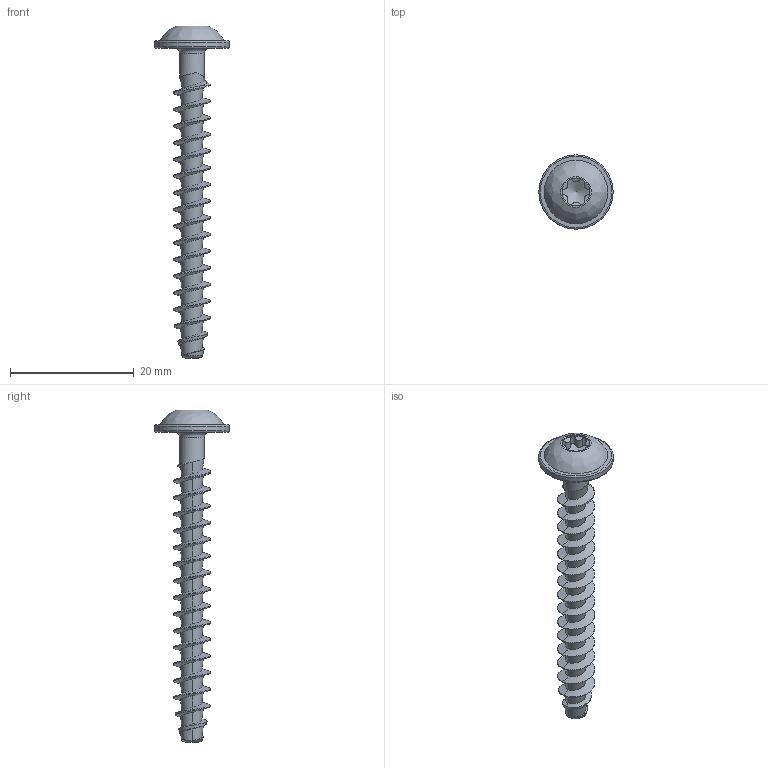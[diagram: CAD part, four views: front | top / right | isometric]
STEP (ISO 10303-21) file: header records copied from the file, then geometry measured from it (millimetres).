
FILE_DESCRIPTION(/* description */ (''),/* implementation_level */ '2;1');
FILE_NAME(/* name */ 'KN1038-STS-60x50-T25.step',/* time_stamp */ '2017-10-12T15:49:01+02:00',/* author */ (''),/* organization */ (''),/* preprocessor_version */ 'ST-DEVELOPER v16',/* originating_system */ 'SIEMENS PLM Software NX 10.0',/* authorisation */ '');
FILE_SCHEMA (('AUTOMOTIVE_DESIGN { 1 0 10303 214 3 1 1 1 }'));
Length unit declared in the file: millimetre
Products named in the file (1): KN1038-STS-60x50-T25
Bounding box: 12 x 12 x 53.6 mm (x, y, z)
Volume: 853.2 mm3; surface area: 1371.2 mm2
Topology: 1 solids, 1 shells, 82 faces, 199 edges, 121 vertices
Faces by surface type: bspline 54, cylinder 16, cone 4, torus 4, plane 4
Full cylindrical faces by diameter (mm): 4.03 x1, 4.52 x1, 12 x1
Entity records: 6195 total; most frequent: CARTESIAN_POINT 4715, ORIENTED_EDGE 364, EDGE_CURVE 182, DIRECTION 150, VERTEX_POINT 115, B_SPLINE_CURVE_WITH_KNOTS 105, EDGE_LOOP 94, ADVANCED_FACE 82
